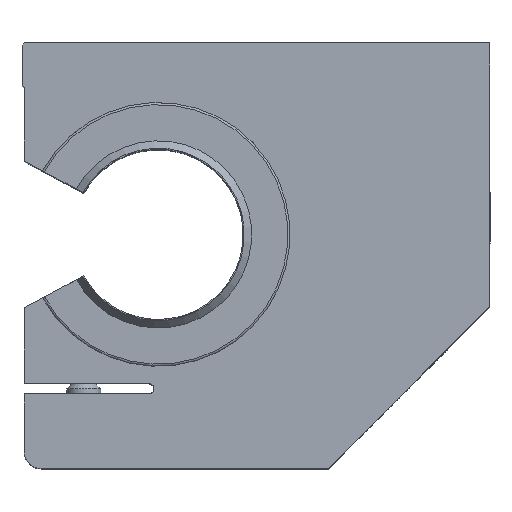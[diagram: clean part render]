
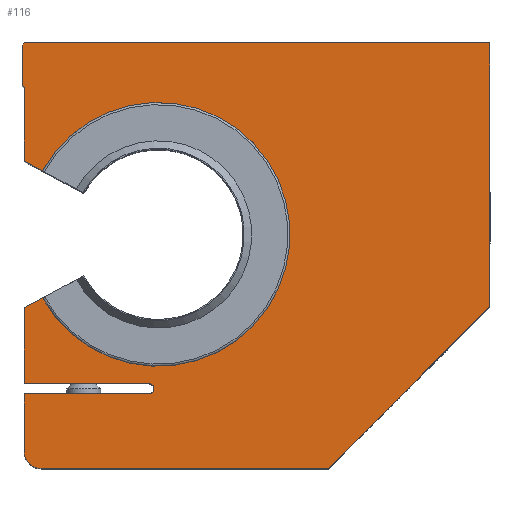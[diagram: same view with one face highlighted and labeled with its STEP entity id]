
A CAD part, top view. The second image highlights one B-rep face of the part: STEP entity #116.
In plain terms, the highlighted planar face has unit normal (0, 0, 1).
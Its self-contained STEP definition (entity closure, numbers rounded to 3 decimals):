
#116=ADVANCED_FACE('',(#257),#258,.F.);
#257=FACE_OUTER_BOUND('',#475,.T.);
#258=PLANE('',#476);
#475=EDGE_LOOP('',(#989,#990,#991,#992,#993,#994,#995,#996,#997,#998,#999,#1000,#1001,#1002,#1003,#1004,#1005));
#476=AXIS2_PLACEMENT_3D('',#1006,#1007,#1008);
#989=ORIENTED_EDGE('',*,*,#1492,.T.);
#990=ORIENTED_EDGE('',*,*,#1500,.T.);
#991=ORIENTED_EDGE('',*,*,#1501,.T.);
#992=ORIENTED_EDGE('',*,*,#1502,.T.);
#993=ORIENTED_EDGE('',*,*,#1503,.T.);
#994=ORIENTED_EDGE('',*,*,#1504,.T.);
#995=ORIENTED_EDGE('',*,*,#1505,.T.);
#996=ORIENTED_EDGE('',*,*,#1506,.T.);
#997=ORIENTED_EDGE('',*,*,#1452,.T.);
#998=ORIENTED_EDGE('',*,*,#1358,.T.);
#999=ORIENTED_EDGE('',*,*,#1434,.T.);
#1000=ORIENTED_EDGE('',*,*,#1450,.T.);
#1001=ORIENTED_EDGE('',*,*,#1471,.T.);
#1002=ORIENTED_EDGE('',*,*,#1474,.T.);
#1003=ORIENTED_EDGE('',*,*,#1478,.T.);
#1004=ORIENTED_EDGE('',*,*,#1481,.T.);
#1005=ORIENTED_EDGE('',*,*,#1484,.T.);
#1006=CARTESIAN_POINT('',(0.0,0.0,45.5));
#1007=DIRECTION('',(0.0,0.0,-1.0));
#1008=DIRECTION('',(0.,-1.0,0.0));
#1358=EDGE_CURVE('',#1630,#1628,#1631,.T.);
#1434=EDGE_CURVE('',#1628,#1757,#1759,.T.);
#1450=EDGE_CURVE('',#1757,#1783,#1785,.T.);
#1452=EDGE_CURVE('',#1788,#1630,#1789,.T.);
#1471=EDGE_CURVE('',#1783,#1817,#1819,.T.);
#1474=EDGE_CURVE('',#1817,#1822,#1824,.T.);
#1478=EDGE_CURVE('',#1822,#1829,#1831,.T.);
#1481=EDGE_CURVE('',#1829,#1834,#1836,.T.);
#1484=EDGE_CURVE('',#1834,#1839,#1841,.T.);
#1492=EDGE_CURVE('',#1839,#1854,#1856,.T.);
#1500=EDGE_CURVE('',#1854,#1870,#1871,.F.);
#1501=EDGE_CURVE('',#1870,#1872,#1873,.T.);
#1502=EDGE_CURVE('',#1872,#1874,#1875,.T.);
#1503=EDGE_CURVE('',#1874,#1876,#1877,.T.);
#1504=EDGE_CURVE('',#1876,#1878,#1879,.T.);
#1505=EDGE_CURVE('',#1878,#1880,#1881,.T.);
#1506=EDGE_CURVE('',#1880,#1788,#1882,.T.);
#1628=VERTEX_POINT('',#2035);
#1630=VERTEX_POINT('',#2038);
#1631=CIRCLE('',#2039,31.0);
#1757=VERTEX_POINT('',#2254);
#1759=LINE('',#2257,#2258);
#1783=VERTEX_POINT('',#2312);
#1785=LINE('',#2315,#2316);
#1788=VERTEX_POINT('',#2324);
#1789=LINE('',#2325,#2326);
#1817=VERTEX_POINT('',#2382);
#1819=LINE('',#2385,#2386);
#1822=VERTEX_POINT('',#2389);
#1824=CIRCLE('',#2392,1.25);
#1829=VERTEX_POINT('',#2398);
#1831=LINE('',#2401,#2402);
#1834=VERTEX_POINT('',#2406);
#1836=LINE('',#2409,#2410);
#1839=VERTEX_POINT('',#2413);
#1841=CIRCLE('',#2416,4.0);
#1854=VERTEX_POINT('',#2432);
#1856=LINE('',#2435,#2436);
#1870=VERTEX_POINT('',#2457);
#1871=LINE('',#2458,#2459);
#1872=VERTEX_POINT('',#2460);
#1873=LINE('',#2461,#2462);
#1874=VERTEX_POINT('',#2463);
#1875=LINE('',#2464,#2465);
#1876=VERTEX_POINT('',#2466);
#1877=LINE('',#2467,#2468);
#1878=VERTEX_POINT('',#2469);
#1879=LINE('',#2470,#2471);
#1880=VERTEX_POINT('',#2472);
#1881=LINE('',#2473,#2474);
#1882=LINE('',#2475,#2476);
#2035=CARTESIAN_POINT('',(-27.176,-14.915,45.5));
#2038=CARTESIAN_POINT('',(-27.176,14.915,45.5));
#2039=AXIS2_PLACEMENT_3D('',#2626,#2627,#2628);
#2254=CARTESIAN_POINT('',(-31.5,-17.214,45.5));
#2257=CARTESIAN_POINT('',(-27.176,-14.915,45.5));
#2258=VECTOR('',#2742,1.0);
#2312=CARTESIAN_POINT('',(-31.5,-35.0,45.5));
#2315=CARTESIAN_POINT('',(-31.5,-17.214,45.5));
#2316=VECTOR('',#2753,1.0);
#2324=CARTESIAN_POINT('',(-31.5,17.214,45.5));
#2325=CARTESIAN_POINT('',(-31.5,17.214,45.5));
#2326=VECTOR('',#2754,1.0);
#2382=CARTESIAN_POINT('',(-2.25,-35.0,45.5));
#2385=CARTESIAN_POINT('',(-31.5,-35.0,45.5));
#2386=VECTOR('',#2771,1.0);
#2389=CARTESIAN_POINT('',(-2.25,-37.5,45.5));
#2392=AXIS2_PLACEMENT_3D('',#2776,#2777,#2778);
#2398=CARTESIAN_POINT('',(-31.5,-37.5,45.5));
#2401=CARTESIAN_POINT('',(-2.25,-37.5,45.5));
#2402=VECTOR('',#2784,1.0);
#2406=CARTESIAN_POINT('',(-31.5,-51.0,45.5));
#2409=CARTESIAN_POINT('',(-31.5,-37.5,45.5));
#2410=VECTOR('',#2787,1.0);
#2413=CARTESIAN_POINT('',(-27.5,-55.0,45.5));
#2416=AXIS2_PLACEMENT_3D('',#2792,#2793,#2794);
#2432=CARTESIAN_POINT('',(40.0,-55.0,45.5));
#2435=CARTESIAN_POINT('',(-27.5,-55.0,45.5));
#2436=VECTOR('',#2808,1.0);
#2457=CARTESIAN_POINT('',(78.0,-17.,45.5));
#2458=CARTESIAN_POINT('',(78.0,-17.,45.5));
#2459=VECTOR('',#2816,1.0);
#2460=CARTESIAN_POINT('',(78.0,45.0,45.5));
#2461=CARTESIAN_POINT('',(78.0,-55.0,45.5));
#2462=VECTOR('',#2817,1.0);
#2463=CARTESIAN_POINT('',(-31.5,45.0,45.5));
#2464=CARTESIAN_POINT('',(78.0,45.0,45.5));
#2465=VECTOR('',#2818,1.0);
#2466=CARTESIAN_POINT('',(-32.0,44.5,45.5));
#2467=CARTESIAN_POINT('',(-31.5,45.0,45.5));
#2468=VECTOR('',#2819,1.0);
#2469=CARTESIAN_POINT('',(-32.0,35.0,45.5));
#2470=CARTESIAN_POINT('',(-32.0,44.5,45.5));
#2471=VECTOR('',#2820,1.0);
#2472=CARTESIAN_POINT('',(-31.5,34.5,45.5));
#2473=CARTESIAN_POINT('',(-32.0,35.0,45.5));
#2474=VECTOR('',#2821,1.0);
#2475=CARTESIAN_POINT('',(-31.5,34.5,45.5));
#2476=VECTOR('',#2822,1.0);
#2626=CARTESIAN_POINT('',(0.0,0.0,45.5));
#2627=DIRECTION('',(0.0,0.0,-1.0));
#2628=DIRECTION('',(1.0,0.,0.0));
#2742=DIRECTION('',(-0.883,-0.469,0.0));
#2753=DIRECTION('',(0.,-1.0,0.0));
#2754=DIRECTION('',(0.883,-0.469,0.0));
#2771=DIRECTION('',(1.0,0.0,0.0));
#2776=CARTESIAN_POINT('',(-2.25,-36.25,45.5));
#2777=DIRECTION('',(0.0,0.0,-1.0));
#2778=DIRECTION('',(1.0,0.,0.0));
#2784=DIRECTION('',(-1.0,0.0,0.0));
#2787=DIRECTION('',(0.,-1.0,0.0));
#2792=CARTESIAN_POINT('',(-27.5,-51.0,45.5));
#2793=DIRECTION('',(0.0,-0.0,1.0));
#2794=DIRECTION('',(1.0,0.,0.0));
#2808=DIRECTION('',(1.0,0.0,0.0));
#2816=DIRECTION('',(-0.707,-0.707,0.0));
#2817=DIRECTION('',(0.,1.0,0.0));
#2818=DIRECTION('',(-1.0,0.,0.0));
#2819=DIRECTION('',(-0.707,-0.707,0.0));
#2820=DIRECTION('',(0.0,-1.0,0.0));
#2821=DIRECTION('',(0.707,-0.707,0.0));
#2822=DIRECTION('',(0.,-1.0,0.0));
